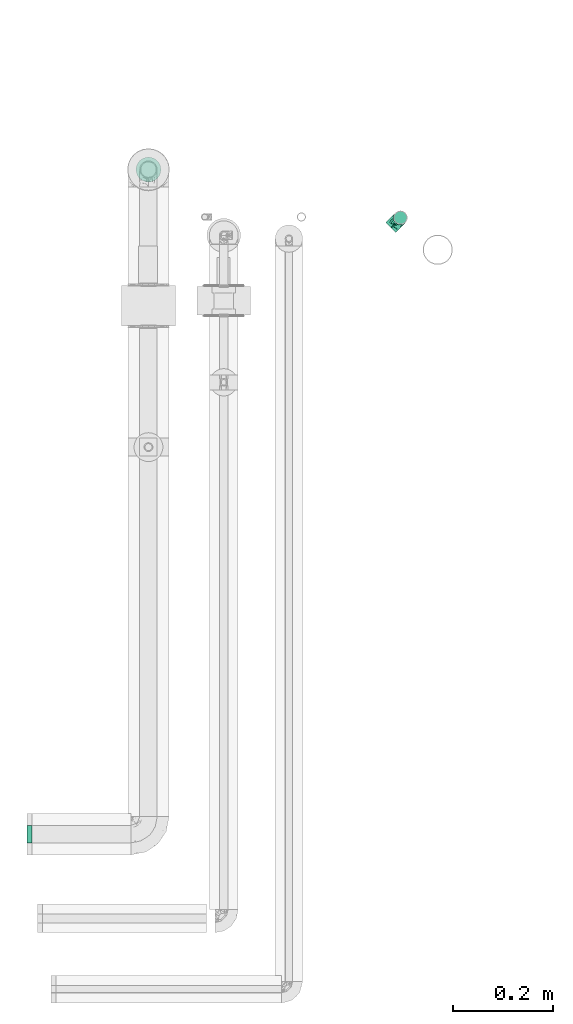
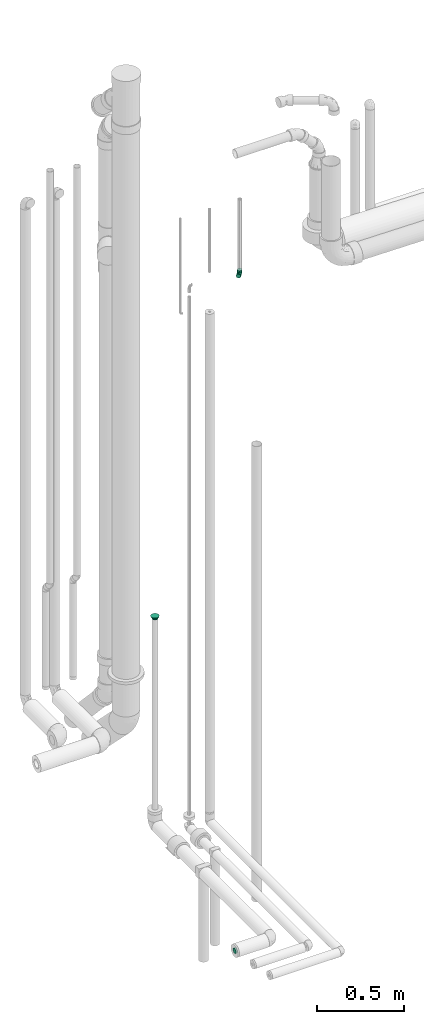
# One storey, part 75 of 78: 3 flow fittings.
"""IFC2X3 building model written with IfcOpenShell, lengths in millimetres."""

from ifc_helpers import new_model, entity, si_unit, converted_unit, derived_unit, direction, frame, origin_with_axes, place, context, subcontext, project, spatial, open_shell, surface_model, source, transform, mapped, type_object, element, save


model = new_model("IFC2X3")

# Units and contexts
model_context = context("Model", 3, precision=0.01, world=frame((0.0, 4.29681676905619e-09, 0.0)), true_north=direction((4.01073788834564e-13, 1.0)))
plan_context = context("Plan", 3, precision=0.01, world=frame((0.0, 4.29681676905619e-09, 0.0)), true_north=direction((4.01073788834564e-13, 1.0)))
body_context = subcontext(model_context, "Body", "Model", "MODEL_VIEW")
ifc_project = project(units=[converted_unit("PLANEANGLEUNIT", "DEGREE", entity("IfcPositiveLengthMeasure", 0.0174532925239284), si_unit("PLANEANGLEUNIT", "RADIAN"), dimensions=[0, 0, 0, 0, 0, 0, 0]), si_unit("AREAUNIT", "SQUARE_METRE"), si_unit("LENGTHUNIT", "METRE", prefix="MILLI"), si_unit("MASSUNIT", "GRAM", prefix="KILO"), si_unit("POWERUNIT", "WATT"), si_unit("PRESSUREUNIT", "PASCAL"), si_unit("FORCEUNIT", "NEWTON", prefix="KILO"), si_unit("ELECTRICVOLTAGEUNIT", "VOLT"), si_unit("ELECTRICCURRENTUNIT", "AMPERE"), si_unit("THERMODYNAMICTEMPERATUREUNIT", "DEGREE_CELSIUS"), si_unit("TIMEUNIT", "SECOND"), si_unit("VOLUMEUNIT", "CUBIC_METRE"), derived_unit("LINEARVELOCITYUNIT", [(si_unit("LENGTHUNIT", "METRE"), 1), (si_unit("TIMEUNIT", "SECOND"), -1)]), derived_unit("VOLUMETRICFLOWRATEUNIT", [(si_unit("VOLUMEUNIT", "CUBIC_METRE"), 1), (si_unit("TIMEUNIT", "SECOND"), -1)]), derived_unit("THERMALTRANSMITTANCEUNIT", [(si_unit("POWERUNIT", "WATT"), 1), (si_unit("THERMODYNAMICTEMPERATUREUNIT", "KELVIN"), -1), (si_unit("AREAUNIT", "SQUARE_METRE"), -1)]), derived_unit("SOUNDPRESSUREUNIT", [(si_unit("PRESSUREUNIT", "PASCAL"), 1)])], contexts=[model_context, plan_context])

# Site, building, storey
site_placement = place(None, frame((0.0, -4.29681676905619e-09, 0.0), z_axis=(0.0, 0.0, 1.0), x_axis=(1.0, 0.0, 0.0)))
site = spatial("IfcSite", under=ifc_project, at=site_placement, Name="ENGM", CompositionType="ELEMENT")
building_placement = place(site_placement, frame((0.0, 4.29681676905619e-09, 0.0), z_axis=(0.0, 0.0, 1.0), x_axis=(1.0, 0.0, 0.0)))
building = spatial("IfcBuilding", under=site, at=building_placement, Name="TH", CompositionType="ELEMENT")
storey_placement = place(building_placement, frame((0.0, 0.0, 205200.0), z_axis=(0.0, 0.0, 1.0), x_axis=(1.0, 0.0, 0.0)))
storey = spatial("IfcBuildingStorey", under=building, at=storey_placement, Name="Nivå D + 1,2 m", CompositionType="ELEMENT", Elevation=205200.0)

# Flow fittings
pipe_fitting_type_1 = type_object("IfcPipeFittingType", Name="magi_pipe_cu_reducer_centric_short_001", PredefinedType="TRANSITION")
shared_shape_1 = source(origin_with_axes(), body_context, "Body", "SurfaceModel", [
    surface_model("IfcShellBasedSurfaceModel", [(-2.0, 0.0, 17.5), (-2.0, 4.52933, 16.9037), (-2.0, 8.75, 15.15544), (-2.0, -16.9037, 4.52933), (-2.0, 12.37437, 12.37437), (-2.0, 15.15544, 8.75), (-2.0, 16.9037, 4.52933), (-2.0, -8.75, 15.15544), (-2.0, -12.37437, 12.37437), (-2.0, -4.52933, 16.9037), (-2.0, -15.15544, 8.75), (-2.0, -15.15544, -8.75), (-2.0, -17.5, 0.0), (-2.0, 16.9037, -4.52933), (-2.0, 8.75, -15.15544), (-2.0, 12.37437, -12.37437), (-2.0, 15.15544, -8.75), (-2.0, 4.52933, -16.9037), (-2.0, -8.75, -15.15544), (-2.0, -12.37437, -12.37437), (-2.0, -16.9037, -4.52933), (-2.0, 0.0, -17.5), (-2.0, -4.52933, -16.9037), (-2.0, 17.5, 0.0), (0.0, 16.9037, -4.52933), (0.0, 4.52933, -16.9037), (0.0, 8.75, -15.15544), (0.0, 12.37437, -12.37437), (0.0, -15.15544, -8.75), (0.0, 15.15544, -8.75), (0.0, 16.9037, 4.52933), (0.0, 0.0, -17.5), (0.0, -8.75, -15.15544), (0.0, -4.52933, -16.9037), (0.0, -12.37437, -12.37437), (0.0, -17.5, 0.0), (0.0, -16.9037, -4.52933), (0.0, 17.5, 0.0), (0.0, 15.15544, 8.75), (0.0, 12.37437, 12.37437), (0.0, 8.75, 15.15544), (0.0, 4.52933, 16.9037), (0.0, 0.0, 17.5), (0.0, -16.9037, 4.52933), (0.0, -12.37437, 12.37437), (0.0, -15.15544, 8.75), (0.0, -8.75, 15.15544), (0.0, -4.52933, 16.9037), (17.0, 6.47048, -24.14815), (17.0, 12.5, -21.65064), (17.0, 17.67767, -17.67767), (17.0, 24.14815, -6.47048), (17.0, -12.5, -21.65064), (17.0, 21.65064, -12.5), (17.0, -25.0, 0.0), (17.0, -6.47048, -24.14815), (17.0, 0.0, -25.0), (17.0, -17.67767, -17.67767), (17.0, -24.14815, -6.47048), (17.0, -21.65064, -12.5), (17.0, 24.14815, 6.47048), (17.0, 25.0, 0.0), (17.0, 21.65064, 12.5), (17.0, 17.67767, 17.67767), (17.0, -17.67767, 17.67767), (17.0, 6.47048, 24.14815), (17.0, 0.0, 25.0), (17.0, 12.5, 21.65064), (17.0, -24.14815, 6.47048), (17.0, -21.65064, 12.5), (17.0, -6.47048, 24.14815), (17.0, -12.5, 21.65064), (15.0, 24.14815, 6.47048), (15.0, 0.0, 25.0), (15.0, 6.47048, 24.14815), (15.0, 12.5, 21.65064), (15.0, 17.67767, 17.67767), (15.0, 21.65064, 12.5), (15.0, -17.67767, 17.67767), (15.0, -6.47048, 24.14815), (15.0, -12.5, 21.65064), (15.0, -24.14815, 6.47048), (15.0, -21.65064, 12.5), (15.0, -12.5, -21.65064), (15.0, -24.14815, -6.47048), (15.0, -25.0, 0.0), (15.0, 24.14815, -6.47048), (15.0, 6.47048, -24.14815), (15.0, 21.65064, -12.5), (15.0, 17.67767, -17.67767), (15.0, 12.5, -21.65064), (15.0, -17.67767, -17.67767), (15.0, -21.65064, -12.5), (15.0, -6.47048, -24.14815), (15.0, 0.0, -25.0), (15.0, 25.0, 0.0), (15.0, -7.72542, 23.77641), (15.0, 7.72542, 23.77641), (15.0, 20.22543, -14.69463), (15.0, 20.22543, 14.69463), (15.0, -20.22543, 14.69463), (15.0, -20.22543, -14.69463), (15.0, -7.72542, -23.77641), (15.0, 7.72542, -23.77641), (0.0, 13.65578, -9.28078), (0.0, -6.18718, -14.93718), (15.0, -13.97542, -19.23552), (0.0, 14.93718, -6.18718), (15.0, 22.61271, -7.34732), (15.0, 21.41907, -11.02097), (0.0, -9.28078, -13.65578), (0.0, -14.93718, -6.18718), (0.0, -13.65578, -9.28078), (15.0, 0.0, -23.77641), (0.0, -3.09359, -16.21859), (15.0, 13.97542, -19.23552), (0.0, -16.21859, -3.09359), (15.0, -22.61271, -7.34732), (0.0, 3.09359, -16.21859), (0.0, 16.21859, -3.09359), (0.0, 6.18718, -14.93718), (0.0, 9.28078, -13.65578), (0.0, -13.65578, 9.28078), (0.0, 6.18718, 14.93718), (15.0, 13.97542, 19.23552), (0.0, -14.93718, 6.18718), (15.0, -22.61271, 7.34732), (15.0, -21.41907, 11.02097), (0.0, 9.28078, 13.65578), (0.0, 14.93718, 6.18718), (0.0, 13.65578, 9.28078), (15.0, 0.0, 23.77641), (0.0, 3.09359, 16.21859), (15.0, -13.97542, 19.23552), (0.0, 16.21859, 3.09359), (15.0, 22.61271, 7.34732), (0.0, -3.09359, 16.21859), (0.0, -16.21859, 3.09359), (0.0, -6.18718, 14.93718), (0.0, -9.28078, 13.65578)], [open_shell([[[0, 1, 2]], [[3, 0, 2]], [[4, 5, 6]], [[4, 6, 2]], [[3, 2, 6]], [[7, 3, 8]], [[7, 9, 0]], [[8, 3, 10]], [[0, 3, 7]], [[3, 11, 12]], [[3, 6, 13]], [[3, 13, 14]], [[15, 13, 16]], [[17, 3, 14]], [[14, 13, 15]], [[17, 18, 3]], [[11, 18, 19]], [[20, 12, 11]], [[18, 21, 22]], [[11, 3, 18]], [[21, 18, 17]], [[6, 23, 13]], [[24, 25, 26]], [[24, 26, 27]], [[25, 24, 28]], [[24, 27, 29]], [[30, 28, 24]], [[31, 32, 33]], [[31, 25, 32]], [[32, 28, 34]], [[25, 28, 32]], [[28, 35, 36]], [[30, 24, 37]], [[30, 38, 39]], [[35, 30, 39]], [[40, 41, 42]], [[39, 40, 43]], [[42, 43, 40]], [[43, 44, 45]], [[43, 35, 39]], [[43, 46, 44]], [[43, 42, 46]], [[47, 46, 42]], [[30, 35, 28]], [[20, 36, 12]], [[11, 28, 20]], [[32, 19, 18]], [[11, 19, 34]], [[33, 18, 22]], [[20, 28, 36]], [[36, 35, 12]], [[33, 32, 18]], [[34, 19, 32]], [[34, 28, 11]], [[31, 33, 22]], [[22, 21, 31]], [[17, 25, 21]], [[14, 26, 17]], [[29, 15, 16]], [[14, 15, 27]], [[24, 16, 13]], [[14, 27, 26]], [[26, 25, 17]], [[37, 24, 13]], [[29, 16, 24]], [[29, 27, 15]], [[23, 37, 13]], [[21, 25, 31]], [[6, 30, 23]], [[5, 38, 6]], [[40, 4, 2]], [[5, 4, 39]], [[41, 2, 1]], [[6, 38, 30]], [[30, 37, 23]], [[41, 40, 2]], [[39, 4, 40]], [[39, 38, 5]], [[42, 41, 1]], [[1, 0, 42]], [[9, 47, 0]], [[7, 46, 9]], [[45, 8, 10]], [[7, 8, 44]], [[43, 10, 3]], [[7, 44, 46]], [[46, 47, 9]], [[35, 43, 3]], [[45, 10, 43]], [[45, 44, 8]], [[12, 35, 3]], [[0, 47, 42]], [[34, 35, 44]], [[42, 39, 37]], [[48, 49, 50]], [[48, 50, 51]], [[48, 51, 52]], [[51, 50, 53]], [[54, 52, 51]], [[48, 55, 56]], [[48, 52, 55]], [[57, 58, 59]], [[58, 57, 52]], [[52, 54, 58]], [[60, 51, 61]], [[60, 62, 63]], [[64, 60, 63]], [[65, 66, 63]], [[65, 63, 67]], [[64, 63, 66]], [[68, 64, 69]], [[68, 54, 60]], [[64, 70, 71]], [[68, 60, 64]], [[66, 70, 64]], [[60, 54, 51]], [[72, 73, 74]], [[72, 74, 75]], [[76, 77, 72]], [[76, 72, 75]], [[73, 72, 78]], [[79, 78, 80]], [[79, 73, 78]], [[78, 81, 82]], [[81, 78, 83]], [[84, 85, 81]], [[83, 78, 72]], [[72, 86, 83]], [[87, 86, 88]], [[89, 90, 87]], [[89, 87, 88]], [[83, 86, 87]], [[84, 91, 92]], [[91, 84, 83]], [[87, 93, 83]], [[84, 81, 83]], [[94, 93, 87]], [[86, 72, 95]], [[84, 58, 85]], [[92, 59, 84]], [[52, 91, 83]], [[92, 91, 57]], [[55, 83, 93]], [[84, 59, 58]], [[58, 54, 85]], [[55, 52, 83]], [[57, 91, 52]], [[57, 59, 92]], [[56, 55, 93]], [[93, 94, 56]], [[87, 48, 94]], [[90, 49, 87]], [[53, 89, 88]], [[90, 89, 50]], [[51, 88, 86]], [[90, 50, 49]], [[49, 48, 87]], [[61, 51, 86]], [[53, 88, 51]], [[53, 50, 89]], [[95, 61, 86]], [[94, 48, 56]], [[72, 60, 95]], [[77, 62, 72]], [[67, 76, 75]], [[77, 76, 63]], [[65, 75, 74]], [[72, 62, 60]], [[60, 61, 95]], [[65, 67, 75]], [[63, 76, 67]], [[63, 62, 77]], [[66, 65, 74]], [[74, 73, 66]], [[79, 70, 73]], [[80, 71, 79]], [[69, 78, 82]], [[80, 78, 64]], [[68, 82, 81]], [[80, 64, 71]], [[71, 70, 79]], [[54, 68, 81]], [[69, 82, 68]], [[69, 64, 78]], [[85, 54, 81]], [[73, 70, 66]], [[96, 85, 97]], [[97, 98, 99]], [[95, 99, 98]], [[96, 100, 85]], [[85, 101, 98]], [[98, 102, 103]], [[102, 98, 101]], [[85, 98, 97]], [[34, 44, 42]], [[37, 27, 31]], [[31, 34, 37]], [[37, 34, 42]], [[98, 27, 104]], [[105, 102, 106]], [[107, 108, 109]], [[106, 110, 105]], [[101, 111, 112]], [[106, 101, 34]], [[113, 114, 31]], [[112, 34, 101]], [[27, 98, 115]], [[85, 116, 117]], [[118, 113, 31]], [[95, 119, 37]], [[111, 101, 117]], [[115, 120, 121]], [[119, 95, 108]], [[113, 118, 103]], [[102, 105, 114]], [[102, 114, 113]], [[118, 120, 103]], [[116, 85, 35]], [[107, 119, 108]], [[98, 104, 109]], [[104, 107, 109]], [[106, 34, 110]], [[120, 115, 103]], [[121, 27, 115]], [[116, 111, 117]], [[100, 44, 122]], [[123, 97, 124]], [[125, 126, 127]], [[124, 128, 123]], [[99, 129, 130]], [[124, 99, 39]], [[131, 132, 42]], [[130, 39, 99]], [[44, 100, 133]], [[95, 134, 135]], [[136, 131, 42]], [[85, 137, 35]], [[129, 99, 135]], [[133, 138, 139]], [[137, 85, 126]], [[131, 136, 96]], [[97, 123, 132]], [[97, 132, 131]], [[136, 138, 96]], [[134, 95, 37]], [[125, 137, 126]], [[100, 122, 127]], [[122, 125, 127]], [[124, 39, 128]], [[138, 133, 96]], [[139, 44, 133]], [[134, 129, 135]]])]),
])
flow_fitting_1_placement = place(storey_placement, frame((895369.5, 478680.9125, 5885.0), z_axis=(1.0, 0.0, 0.0), x_axis=(0.0, 0.0, 1.0)))
element("IfcFlowFitting", 1, at=flow_fitting_1_placement, inside=storey, type_object=pipe_fitting_type_1, Name="magi_pipe_cu_reducer_centric_short_001", context=body_context, shape_type="MappedRepresentation", body=[
    mapped(shared_shape_1, transform((0.0, 0.0, 0.0), scale=1.0)),
])
pipe_fitting_type_2 = type_object("IfcPipeFittingType", Name="magi_pipe_cu_elbow_short_001", PredefinedType="BEND")
shared_shape_2 = source(origin_with_axes(), body_context, "Body", "SurfaceModel", [
    surface_model("IfcShellBasedSurfaceModel", [(-28.00274, 7.0, -12.12436), (-28.00274, 3.62347, -13.52296), (-28.00274, 0.0, -14.0), (-28.00274, 9.89949, -9.89949), (-28.00274, 13.52296, -3.62347), (-28.00274, 12.12436, -7.0), (-28.00274, 14.0, 0.0), (-28.00274, -12.12436, -7.0), (-28.00274, -9.89949, -9.89949), (-28.00274, -7.0, -12.12436), (-28.00274, -3.62347, -13.52296), (-28.00274, -13.52296, -3.62347), (-28.00274, -14.0, 0.0), (-28.00274, 13.52296, 3.62347), (-28.00274, 3.62347, 13.52296), (-28.00274, 12.12436, 7.0), (-28.00274, 9.89949, 9.89949), (-28.00274, 7.0, 12.12436), (-28.00274, 0.0, 14.0), (-28.00274, -9.89949, 9.89949), (-28.00274, -7.0, 12.12436), (-28.00274, -12.12436, 7.0), (-28.00274, -13.52296, 3.62347), (-28.00274, -3.62347, 13.52296), (-0.00274, 28.00274, -14.0), (-3.62621, 28.00239, -13.52296), (-7.00274, 28.00206, -12.12436), (12.12161, 28.00393, -7.0), (-12.1271, 28.00156, -7.0), (-9.90224, 28.00177, -9.89949), (12.12161, 28.00393, 7.0), (6.99726, 28.00343, -12.12436), (9.89675, 28.00371, -9.89949), (3.62072, 28.0031, -13.52296), (13.99725, 28.00412, 0.0), (13.52022, 28.00407, -3.62347), (-13.52571, 28.00142, -3.62347), (-13.52571, 28.00142, 3.62347), (-12.1271, 28.00156, 7.0), (-9.90224, 28.00177, 9.89949), (-7.00274, 28.00206, 12.12436), (-3.62621, 28.00239, 13.52296), (-0.00274, 28.00274, 14.0), (6.99726, 28.00343, 12.12436), (9.89675, 28.00371, 9.89949), (13.52022, 28.00407, 3.62347), (3.62072, 28.0031, 13.52296), (-14.00274, 28.00137, 0.0), (-18.75013, -12.24676, 4.38171), (-20.50053, -10.87115, 7.85536), (-14.63381, -10.41757, 0.0), (-11.3709, -10.18858, 3.09695), (5.89302, 4.33236, 4.24465), (3.06587, 4.042, 8.35554), (-0.1744, -0.7335, 7.21047), (-12.21902, -8.85834, 7.04944), (-3.77476, -5.47003, 4.31408), (-21.31828, -12.20879, 0.0), (6.34822, 11.26235, 9.57707), (8.06304, 18.32028, 10.42707), (3.37342, 10.8141, 11.64286), (-18.31949, -8.06484, 10.42707), (-20.56535, -5.29226, 12.59494), (-21.38979, -1.85461, 13.76055), (-19.60694, 2.14602, 13.97614), (-10.81377, -3.37448, 11.64286), (-13.94022, -0.12543, 13.5695), (-21.58374, 5.49071, 13.22502), (-21.9587, 11.65159, 9.18001), (-20.06, 14.63281, 6.40083), (-24.51085, 13.14643, 5.80122), (-14.41566, 20.50663, 6.33721), (-4.86704, 13.76883, 13.97491), (-10.37168, 10.37066, 13.6599), (-8.33759, 6.11852, 13.92783), (-14.7591, 15.63606, 9.91694), (-24.22413, 8.47817, 11.40759), (-3.65582, 9.37866, 13.74658), (-6.95819, 2.56845, 13.073), (-1.43209, 7.56494, 12.86582), (-23.31812, 14.32859, 3.52774), (-21.70061, 16.61061, 0.0), (-5.22831, 24.15092, 13.11353), (-1.9208, 20.94436, 13.96562), (5.29025, 20.56587, 12.59494), (-4.81003, -3.33904, 8.67591), (-2.50207, 2.50183, 11.44597), (1.85251, 21.38998, 13.76055), (10.86914, 20.50159, 7.85536), (8.85714, 12.21989, 7.04944), (12.24492, 18.75133, 4.38171), (-11.26173, -6.34932, 9.57707), (-15.37612, 21.11041, 3.25626), (-19.15225, 16.63603, 3.33838), (10.18747, 11.3719, 3.09695), (10.41613, 14.63483, 0.0), (12.20669, 21.31947, 0.0), (-18.10276, 18.10099, 0.0), (8.37169, 7.00238, 0.0), (-11.50476, 18.60098, 10.7133), (-8.84912, 21.6844, 11.6043), (-11.55956, 22.32478, 9.13971), (-10.59155, 15.13521, 12.47626), (-6.05672, 18.97183, 13.33309), (-14.95432, 12.56326, 11.63436), (-7.00156, -8.37238, 0.0), (-15.38634, 5.99718, 13.74947), (-13.73946, 3.43072, 13.99401), (-14.88528, 9.5, 12.94923), (-8.15713, 14.53377, 13.41135), (0.12406, 13.94023, 13.5695), (-19.2806, 9.50365, 11.78954), (-1.06722, 0.88445, 9.56816), (-3.83174, -4.31622, 6.58323), (-3.15824, -4.52869, 0.0), (1.63647, -1.17126, 3.377), (-16.61274, 21.69899, 0.0), (4.52838, 3.15869, 0.0), (0.68507, -0.685, 0.0), (-22.1654, 1.77021, -13.95444), (-12.1134, 20.49395, -9.34231), (-20.85149, -12.5942, -4.60983), (-21.54493, 5.49689, -13.22667), (-19.1114, 16.60617, -3.53069), (-11.43878, -3.53235, -11.74579), (-12.15872, -0.17421, -13.31563), (-5.62565, -0.23339, -11.47111), (-20.32774, 9.1796, -11.70885), (-22.1379, 11.60458, -9.16033), (8.41507, 20.69459, -10.60187), (-16.88641, 12.83003, -10.55877), (-11.13915, -10.24934, -2.34723), (-4.84451, -6.54652, -3.3615), (-12.96807, 16.27227, -10.78034), (-9.97171, 17.12008, -12.15835), (-12.94071, 12.93944, -12.29262), (-1.23576, -2.64179, -5.92055), (1.229, 2.47265, -8.89747), (5.16464, 4.11795, -5.50826), (-13.82335, 8.10271, -13.53789), (-19.77599, -10.77045, -7.78832), (-20.69377, -8.4171, -10.60187), (-5.71692, 20.37049, -13.27582), (12.59216, 20.85272, -4.60983), (-23.64717, -5.51925, -12.74158), (-12.0952, -8.27195, -7.82818), (-10.4553, -5.71079, -9.79352), (0.58834, 6.57837, -11.67524), (0.17302, 12.15874, -13.31563), (2.89219, 11.95441, -12.23031), (-23.7308, 14.4508, -2.39684), (-13.72956, 22.21804, -6.10211), (-14.65716, 22.72119, -3.1182), (10.76851, 19.77704, -7.78832), (-4.94371, 4.94323, -13.21964), (-17.0155, 16.64558, -6.86745), (-1.77238, 22.16523, -13.95444), (-8.78932, 21.98061, -11.58146), (1.76324, 20.62929, -13.74401), (5.51693, 23.64771, -12.74158), (-20.62912, -1.76526, -13.74401), (-17.73208, -4.83155, -12.45123), (-3.31125, 15.42486, -13.99698), (-7.57172, 8.17032, -13.99205), (-8.28535, 13.27361, -13.58332), (-6.87705, -6.54321, -6.3224), (9.88572, 10.40291, -2.49706), (6.89266, 5.11649, -2.73916), (0.30114, -2.58751, -3.00454), (-22.38528, 13.76118, -5.90629), (9.77687, 12.19402, -5.31282), (8.70549, 13.5228, -8.04181), (5.70977, 10.45586, -9.79352), (4.82981, 17.73256, -12.45123), (-4.06899, -2.72365, -8.72879), (6.23724, 7.82694, -7.6259), (-15.42518, 3.30974, -13.99698), (-16.05275, 23.05118, 0.0), (-12.19306, -9.77807, -5.31282), (3.79749, 1.249, -3.49924), (-15.61487, 15.8565, -9.08389)], [open_shell([[[0, 1, 2]], [[3, 0, 2]], [[4, 5, 3]], [[2, 4, 3]], [[6, 2, 7]], [[8, 7, 9]], [[10, 9, 7]], [[11, 12, 7]], [[2, 10, 7]], [[12, 6, 7]], [[4, 2, 6]], [[13, 6, 14]], [[15, 13, 16]], [[14, 17, 16]], [[13, 14, 16]], [[18, 14, 6]], [[19, 20, 21]], [[21, 12, 22]], [[23, 18, 20]], [[20, 12, 21]], [[6, 20, 18]], [[20, 6, 12]], [[24, 25, 26]], [[27, 24, 26]], [[28, 27, 29]], [[29, 27, 26]], [[30, 27, 28]], [[31, 27, 32]], [[27, 31, 33]], [[27, 34, 35]], [[27, 33, 24]], [[27, 30, 34]], [[30, 28, 36]], [[37, 38, 36]], [[36, 38, 30]], [[39, 40, 41]], [[42, 38, 39]], [[42, 39, 41]], [[30, 43, 44]], [[45, 34, 30]], [[43, 42, 46]], [[42, 43, 30]], [[38, 42, 30]], [[47, 37, 36]], [[48, 49, 21]], [[48, 50, 51]], [[52, 53, 54]], [[55, 51, 56]], [[49, 19, 21]], [[57, 48, 22]], [[58, 59, 60]], [[61, 20, 19]], [[61, 62, 20]], [[18, 63, 64]], [[62, 65, 66]], [[59, 44, 43]], [[18, 23, 63]], [[67, 17, 14]], [[68, 69, 70]], [[38, 37, 71]], [[72, 73, 74]], [[69, 68, 75]], [[18, 64, 14]], [[17, 76, 16]], [[15, 16, 68]], [[77, 78, 79]], [[80, 81, 6]], [[41, 82, 83]], [[43, 84, 59]], [[85, 86, 65]], [[46, 42, 87]], [[88, 89, 90]], [[91, 65, 61]], [[42, 41, 83]], [[71, 92, 93]], [[90, 94, 95]], [[84, 43, 46]], [[88, 90, 30]], [[59, 84, 60]], [[45, 30, 90]], [[75, 71, 69]], [[20, 62, 23]], [[90, 96, 45]], [[97, 81, 93]], [[94, 98, 95]], [[92, 97, 93]], [[50, 48, 57]], [[70, 13, 15]], [[99, 100, 101]], [[39, 101, 100]], [[40, 39, 100]], [[102, 103, 100]], [[103, 72, 83]], [[82, 100, 103]], [[82, 41, 40]], [[99, 104, 102]], [[6, 13, 80]], [[67, 14, 64]], [[51, 50, 105]], [[48, 21, 22]], [[49, 55, 61]], [[30, 44, 88]], [[89, 52, 94]], [[106, 107, 74]], [[108, 67, 106]], [[39, 38, 101]], [[109, 102, 73]], [[103, 109, 72]], [[87, 83, 110]], [[76, 68, 16]], [[68, 111, 104]], [[65, 62, 61]], [[63, 62, 66]], [[91, 61, 55]], [[65, 86, 78]], [[87, 84, 46]], [[110, 79, 60]], [[110, 60, 84]], [[86, 112, 60]], [[55, 49, 48]], [[61, 19, 49]], [[44, 59, 88]], [[89, 88, 59]], [[106, 67, 64]], [[76, 67, 111]], [[53, 52, 89]], [[112, 86, 85]], [[56, 113, 55]], [[112, 54, 53]], [[58, 89, 59]], [[56, 51, 105]], [[114, 115, 56]], [[13, 70, 80]], [[69, 71, 93]], [[47, 116, 92]], [[92, 116, 97]], [[38, 71, 101]], [[75, 101, 71]], [[99, 102, 100]], [[108, 104, 111]], [[106, 74, 73]], [[110, 83, 72]], [[78, 74, 66]], [[72, 74, 77]], [[83, 87, 42]], [[84, 87, 110]], [[62, 63, 23]], [[64, 63, 66]], [[22, 12, 57]], [[96, 90, 95]], [[96, 34, 45]], [[115, 117, 52]], [[56, 105, 114]], [[55, 48, 51]], [[89, 94, 90]], [[52, 98, 94]], [[106, 64, 107]], [[108, 106, 73]], [[102, 108, 73]], [[67, 108, 111]], [[102, 104, 108]], [[68, 104, 75]], [[64, 66, 107]], [[66, 74, 107]], [[65, 78, 66]], [[79, 78, 86]], [[60, 79, 86]], [[77, 79, 110]], [[72, 77, 110]], [[78, 77, 74]], [[67, 76, 17]], [[68, 76, 111]], [[100, 82, 40]], [[83, 82, 103]], [[68, 70, 15]], [[80, 69, 93]], [[69, 80, 70]], [[80, 93, 81]], [[55, 85, 91]], [[85, 65, 91]], [[60, 53, 58]], [[53, 89, 58]], [[54, 112, 85]], [[60, 112, 53]], [[85, 113, 54]], [[113, 115, 54]], [[55, 113, 85]], [[115, 113, 56]], [[71, 37, 92]], [[115, 114, 118]], [[47, 92, 37]], [[101, 75, 99]], [[99, 75, 104]], [[72, 109, 73]], [[103, 102, 109]], [[54, 115, 52]], [[117, 115, 118]], [[117, 98, 52]], [[1, 119, 2]], [[28, 29, 120]], [[121, 57, 11]], [[0, 122, 1]], [[97, 123, 81]], [[124, 125, 126]], [[127, 3, 128]], [[32, 129, 31]], [[127, 128, 130]], [[131, 132, 105]], [[133, 134, 135]], [[127, 0, 3]], [[136, 137, 138]], [[139, 122, 127]], [[3, 5, 128]], [[7, 140, 121]], [[141, 140, 8]], [[25, 142, 26]], [[95, 143, 96]], [[144, 9, 10]], [[145, 141, 146]], [[35, 34, 96]], [[147, 148, 149]], [[140, 7, 8]], [[6, 81, 150]], [[130, 133, 135]], [[151, 152, 36]], [[153, 27, 143]], [[147, 154, 148]], [[36, 28, 151]], [[120, 155, 151]], [[32, 153, 129]], [[24, 156, 25]], [[25, 156, 142]], [[143, 27, 35]], [[29, 26, 157]], [[123, 152, 155]], [[158, 33, 159]], [[144, 160, 161]], [[122, 0, 127]], [[148, 162, 158]], [[157, 26, 142]], [[162, 163, 164]], [[159, 33, 31]], [[165, 136, 132]], [[27, 153, 32]], [[166, 98, 167]], [[160, 10, 2]], [[161, 160, 125]], [[95, 166, 143]], [[50, 131, 105]], [[121, 11, 7]], [[168, 114, 132]], [[150, 169, 4]], [[167, 98, 117]], [[33, 158, 24]], [[164, 142, 162]], [[133, 157, 134]], [[8, 9, 141]], [[165, 145, 146]], [[170, 171, 153]], [[129, 172, 173]], [[126, 137, 174]], [[175, 137, 172]], [[148, 158, 173]], [[156, 158, 162]], [[149, 172, 147]], [[148, 154, 163]], [[119, 160, 2]], [[176, 163, 125]], [[176, 125, 160]], [[125, 154, 126]], [[169, 128, 5]], [[127, 130, 135]], [[139, 127, 135]], [[119, 122, 176]], [[120, 151, 28]], [[152, 97, 177]], [[142, 164, 134]], [[120, 29, 157]], [[152, 47, 36]], [[81, 123, 150]], [[123, 155, 169]], [[152, 123, 97]], [[140, 178, 121]], [[121, 178, 131]], [[144, 141, 9]], [[146, 141, 161]], [[35, 96, 143]], [[170, 153, 143]], [[129, 153, 171]], [[159, 129, 173]], [[137, 147, 172]], [[126, 154, 147]], [[172, 171, 175]], [[174, 137, 136]], [[137, 126, 147]], [[126, 146, 124]], [[117, 118, 179]], [[179, 138, 167]], [[128, 169, 155]], [[5, 4, 169]], [[57, 121, 50]], [[57, 12, 11]], [[122, 119, 1]], [[160, 119, 176]], [[158, 156, 24]], [[142, 156, 162]], [[162, 148, 163]], [[139, 135, 164]], [[125, 163, 154]], [[139, 163, 176]], [[163, 139, 164]], [[122, 139, 176]], [[155, 180, 128]], [[180, 120, 133]], [[180, 133, 130]], [[157, 133, 120]], [[142, 134, 157]], [[164, 135, 134]], [[128, 180, 130]], [[120, 180, 155]], [[152, 151, 155]], [[47, 152, 177]], [[169, 150, 123]], [[6, 150, 4]], [[121, 131, 50]], [[178, 165, 132]], [[178, 132, 131]], [[168, 132, 136]], [[145, 165, 178]], [[174, 165, 146]], [[178, 140, 145]], [[141, 145, 140]], [[179, 136, 138]], [[170, 166, 167]], [[168, 179, 118]], [[170, 167, 138]], [[143, 166, 170]], [[95, 98, 166]], [[117, 179, 167]], [[136, 179, 168]], [[129, 159, 31]], [[158, 159, 173]], [[160, 144, 10]], [[141, 144, 161]], [[175, 170, 138]], [[129, 171, 172]], [[170, 175, 171]], [[137, 175, 138]], [[148, 173, 149]], [[172, 149, 173]], [[165, 174, 136]], [[126, 174, 146]], [[146, 161, 124]], [[125, 124, 161]], [[114, 168, 118]], [[114, 105, 132]]])]),
])
flow_fitting_2_placement = place(storey_placement, frame((895874.84885, 478584.49447, 8178.15354), z_axis=(-0.707106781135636, 0.707106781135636, 1.19999962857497e-05), x_axis=(-3.48527874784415e-06, 1.34852787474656e-05, -0.999999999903)))
element("IfcFlowFitting", 2, at=flow_fitting_2_placement, inside=storey, type_object=pipe_fitting_type_2, Name="magi_pipe_cu_elbow_short_001", context=body_context, shape_type="MappedRepresentation", body=[
    mapped(shared_shape_2, transform((0.0, 0.0, 0.0), scale=1.0)),
])
pipe_fitting_type_3 = type_object("IfcPipeFittingType", Name="magi_pipe_cu_joint_001", PredefinedType="CONNECTOR")
shared_shape_3 = source(origin_with_axes(), body_context, "Body", "SurfaceModel", [
    surface_model("IfcShellBasedSurfaceModel", [(0.0, 0.0, -17.5), (0.0, -12.37437, -12.37437), (0.0, 4.52933, -16.9037), (0.0, 8.75, -15.15544), (0.0, 12.37437, -12.37437), (0.0, 16.9037, -4.52933), (0.0, 15.15544, -8.75), (0.0, -16.9037, -4.52933), (0.0, 8.75, 15.15544), (0.0, -4.52933, -16.9037), (0.0, -8.75, -15.15544), (0.0, -15.15544, -8.75), (0.0, -17.5, 0.0), (0.0, 4.52933, 16.9037), (0.0, 15.15544, 8.75), (0.0, 16.9037, 4.52933), (0.0, 12.37437, 12.37437), (0.0, 0.0, 17.5), (0.0, -16.9037, 4.52933), (0.0, -15.15544, 8.75), (0.0, -12.37437, 12.37437), (0.0, -8.75, 15.15544), (0.0, -4.52933, 16.9037), (0.0, 17.5, 0.0), (10.0, 4.52933, -16.9037), (10.0, -12.37437, -12.37437), (10.0, 0.0, -17.5), (10.0, 12.37437, -12.37437), (10.0, 8.75, -15.15544), (10.0, 15.15544, -8.75), (10.0, 16.9037, -4.52933), (10.0, 8.75, 15.15544), (10.0, -16.9037, -4.52933), (10.0, -8.75, -15.15544), (10.0, -4.52933, -16.9037), (10.0, -15.15544, -8.75), (10.0, -17.5, 0.0), (10.0, 16.9037, 4.52933), (10.0, 15.15544, 8.75), (10.0, 4.52933, 16.9037), (10.0, 12.37437, 12.37437), (10.0, 0.0, 17.5), (10.0, -15.15544, 8.75), (10.0, -16.9037, 4.52933), (10.0, -12.37437, 12.37437), (10.0, -4.52933, 16.9037), (10.0, -8.75, 15.15544), (10.0, 17.5, 0.0)], [open_shell([[[0, 1, 2]], [[3, 2, 4]], [[5, 6, 4]], [[1, 4, 2]], [[7, 8, 4]], [[9, 10, 0]], [[10, 1, 0]], [[11, 7, 1]], [[1, 7, 4]], [[12, 13, 7]], [[5, 4, 8]], [[14, 15, 5]], [[8, 14, 5]], [[8, 7, 13]], [[16, 14, 8]], [[13, 12, 17]], [[18, 19, 12]], [[19, 20, 12]], [[21, 22, 20]], [[17, 20, 22]], [[12, 20, 17]], [[23, 5, 15]], [[24, 25, 26]], [[27, 24, 28]], [[27, 29, 30]], [[24, 27, 25]], [[27, 31, 32]], [[26, 33, 34]], [[26, 25, 33]], [[25, 32, 35]], [[27, 32, 25]], [[32, 31, 36]], [[31, 27, 30]], [[30, 37, 38]], [[30, 38, 31]], [[39, 36, 31]], [[31, 38, 40]], [[41, 36, 39]], [[36, 42, 43]], [[36, 44, 42]], [[44, 45, 46]], [[44, 36, 45]], [[45, 36, 41]], [[37, 30, 47]], [[43, 12, 36]], [[42, 18, 43]], [[20, 44, 46]], [[42, 44, 19]], [[21, 46, 45]], [[42, 19, 18]], [[18, 12, 43]], [[22, 41, 17]], [[22, 21, 45]], [[20, 46, 21]], [[20, 19, 44]], [[41, 22, 45]], [[31, 13, 39]], [[40, 8, 31]], [[14, 38, 37]], [[40, 38, 16]], [[15, 37, 47]], [[31, 8, 13]], [[13, 17, 39]], [[15, 14, 37]], [[16, 38, 14]], [[16, 8, 40]], [[23, 15, 47]], [[39, 17, 41]], [[30, 23, 47]], [[29, 5, 30]], [[4, 27, 28]], [[29, 27, 6]], [[3, 28, 24]], [[29, 6, 5]], [[5, 23, 30]], [[2, 26, 0]], [[2, 3, 24]], [[4, 28, 3]], [[4, 6, 27]], [[26, 2, 24]], [[33, 9, 34]], [[25, 10, 33]], [[11, 35, 32]], [[25, 35, 1]], [[7, 32, 36]], [[33, 10, 9]], [[9, 0, 34]], [[7, 11, 32]], [[1, 35, 11]], [[1, 10, 25]], [[12, 7, 36]], [[34, 0, 26]]])]),
])
flow_fitting_3_placement = place(storey_placement, frame((895136.31886, 477348.36592, 4450.0), z_axis=(0.0, 0.0, 1.0), x_axis=(-1.0, 0.0, 0.0)))
element("IfcFlowFitting", 3, at=flow_fitting_3_placement, inside=storey, type_object=pipe_fitting_type_3, Name="magi_pipe_cu_joint_001", context=body_context, shape_type="MappedRepresentation", body=[
    mapped(shared_shape_3, transform((0.0, 0.0, 0.0), scale=1.0)),
])

save(model, "model.ifc")
